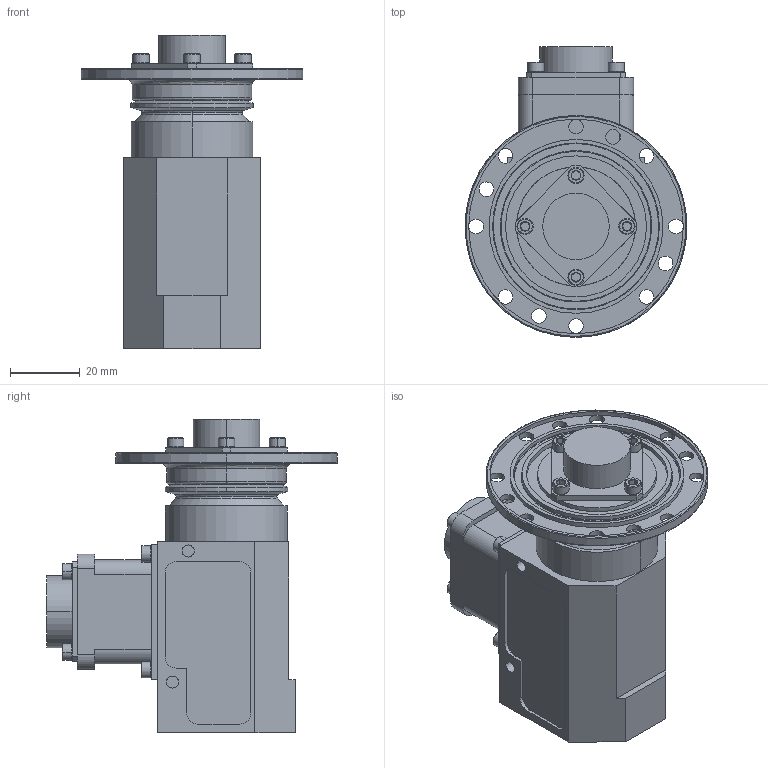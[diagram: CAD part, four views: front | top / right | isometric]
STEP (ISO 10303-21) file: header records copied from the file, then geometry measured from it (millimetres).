
FILE_DESCRIPTION (( 'STEP AP203' ), '1' );
FILE_NAME ('ERT SR10AW-E360-AX.STEP', '2016-01-18T14:25:40', ( '' ), ( '' ), 'SwSTEP 2.0', 'SolidWorks 2014', '' );
FILE_SCHEMA (( 'CONFIG_CONTROL_DESIGN' ));
Length unit declared in the file: inch
Products named in the file (1): ERT SR10AW-E360-AX
Bounding box: 63.47 x 83.22 x 89.83 mm (x, y, z)
Volume: 131215.1 mm3; surface area: 25677.1 mm2
Topology: 1 solids, 1 shells, 428 faces, 938 edges, 558 vertices
Faces by surface type: plane 176, cone 136, cylinder 100, bspline 12, torus 4
Entity records: 13027 total; most frequent: CARTESIAN_POINT 3477, DIRECTION 2058, ORIENTED_EDGE 1876, EDGE_CURVE 938, AXIS2_PLACEMENT_3D 795, VERTEX_POINT 558, EDGE_LOOP 498, LINE 468
